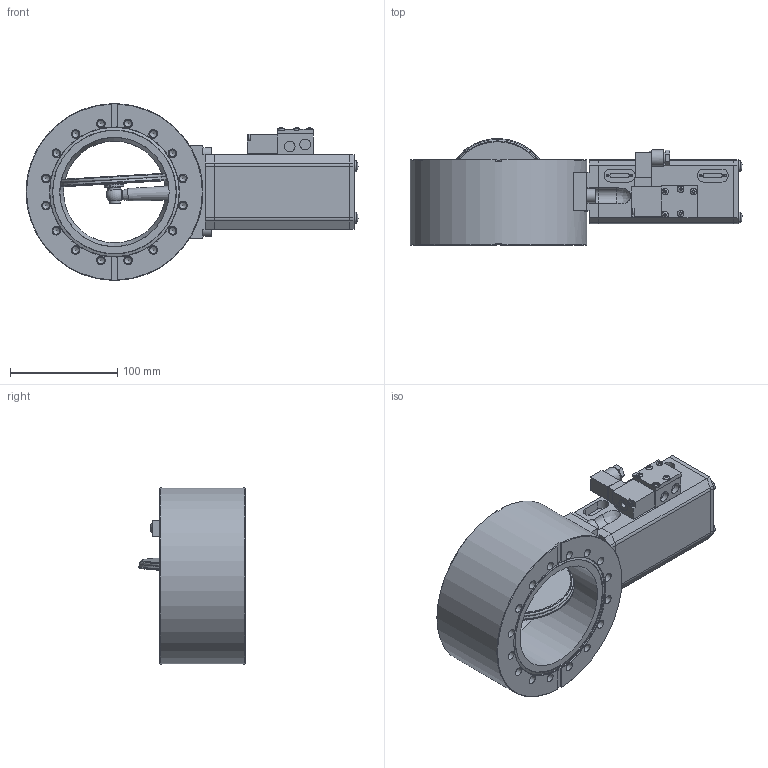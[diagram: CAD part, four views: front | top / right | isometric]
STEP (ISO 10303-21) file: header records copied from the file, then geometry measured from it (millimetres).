
FILE_DESCRIPTION(/* description */ (''),/* implementation_level */ '2;1');
FILE_NAME(/* name */ '1230120704_203.stp',/* time_stamp */ '2010-10-13T08:16:11+02:00',/* author */ (''),/* organization */ (''),/* preprocessor_version */ 'ST-DEVELOPER v11',/* originating_system */ 'SIEMENS UGS NX 6.0',/* authorisation */ '');
FILE_SCHEMA (('CONFIG_CONTROL_DESIGN'));
Length unit declared in the file: millimetre
Products named in the file (24): N-6089-308.1; 372421; 365072; 372221; N-7557-016_1.1; N-7557-018.1; N-7557-016_2.1; N-7557-016_3.1; N-6024-524.1; N-5018-005.1; 224374.6; 233106.4; 224315.3; 224223.6; 233137.1; N-6005-474.1; 225582.1; 244915.1; 224828.2; N-6013-443.2; 372418_MODEL; 372415_NX-ARRAGMNTZUSAMMENST1; 94800-R1.7_NX-ARRAGMNTKONFIG4; 432131
Assembly tree (36 placements, depth 4):
  432131
    N-6013-443.2  x4
    224828.2  x2
    244915.1
    225582.1  x4
    N-6005-474.1
    233137.1
    224223.6
    224315.3
    233106.4
    224374.6
    94800-R1.7_NX-ARRAGMNTKONFIG4
      N-5018-005.1  x2
      N-6024-524.1  x6
      N-7557-016_3.1
      N-7557-016_2.1
      N-7557-018.1
      N-7557-016_1.1
    372415_NX-ARRAGMNTZUSAMMENST1
      372418_MODEL
        372421
        N-6089-308.1
      372221
      365072
Bounding box: 309.7 x 99.57 x 164.99 mm (x, y, z)
Volume: 1462443.1 mm3; surface area: 263070.1 mm2
Topology: 39 solids, 39 shells, 1073 faces, 2580 edges, 1692 vertices
Faces by surface type: plane 616, cylinder 299, cone 112, torus 16, sphere 13, bspline 13, extrusion 4
Full cylindrical faces by diameter (mm): 1.2 x2, 2 x2, 2.2 x4, 2.5 x6, 2.7 x2, 3 x11, 3.2 x4, 3.3 x4, 3.4 x4, 3.5 x4, 4 x13, 4.4 x12, 4.96 x1, 5 x16, 5.006 x1, 5.4 x8, 6 x12, 6.3 x1, 6.4 x34, 6.66 x2, 6.7 x2, 6.9 x1, 7.008 x1, 7.3 x2, 7.5 x5, 8 x40, 8.2 x2, 8.8 x2, 9.95 x1, 10 x13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
Entity records: 26199 total; most frequent: CARTESIAN_POINT 5148, DIRECTION 3757, ORIENTED_EDGE 3144, EDGE_CURVE 1572, AXIS2_PLACEMENT_3D 1521, EDGE_LOOP 1340, VERTEX_POINT 1258, FACE_BOUND 1023
